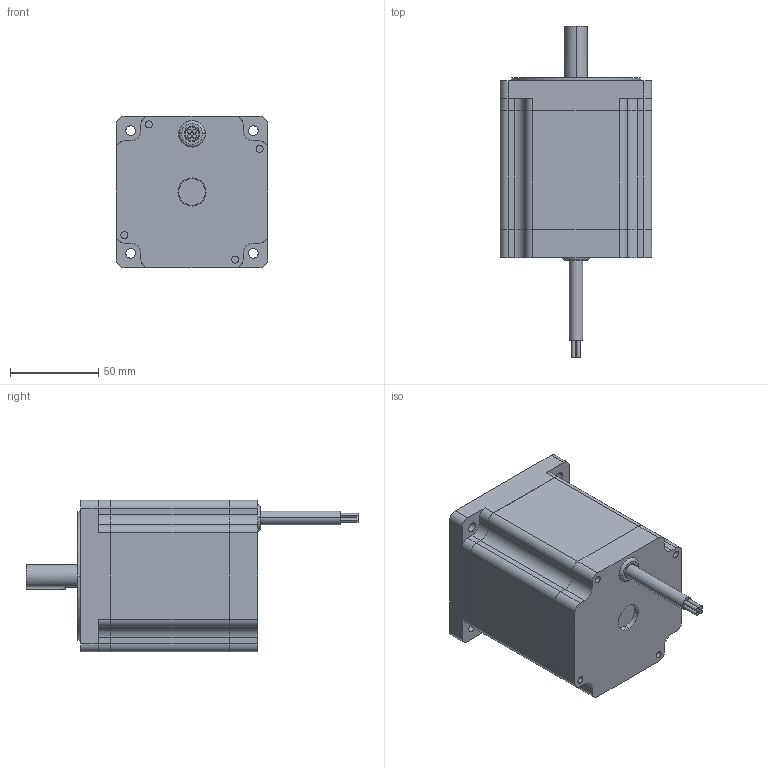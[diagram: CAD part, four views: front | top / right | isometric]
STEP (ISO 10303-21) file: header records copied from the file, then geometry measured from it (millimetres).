
FILE_DESCRIPTION((''),'2;1');
FILE_NAME('MT34HE38100M4K2_ASM','2025-12-17T14:59:06',('luffy'),(''),'CREO PARAMETRIC BY PTC INC, 2016510','CREO PARAMETRIC BY PTC INC, 2016510','');
FILE_SCHEMA(('CONFIG_CONTROL_DESIGN'));
Length unit declared in the file: millimetre
Products named in the file (6): RE_1; ST_1; FE_1; SF_1; MT34HE38100E4K1_ASM_1_ASM; MT34HE38100M4K2_ASM
Assembly tree (5 placements, depth 3):
  MT34HE38100M4K2_ASM
    MT34HE38100E4K1_ASM_1_ASM
      RE_1
      ST_1
      FE_1
      SF_1
Bounding box: 86 x 188.5 x 86 mm (x, y, z)
Volume: 473972.7 mm3; surface area: 108909.7 mm2
Topology: 5 solids, 5 shells, 197 faces, 487 edges, 325 vertices
Faces by surface type: cylinder 111, plane 78, torus 4, cone 4
Entity records: 6157 total; most frequent: DIRECTION 1151, CARTESIAN_POINT 1037, ORIENTED_EDGE 974, EDGE_CURVE 487, AXIS2_PLACEMENT_3D 454, VERTEX_POINT 325, VECTOR 243, LINE 243
